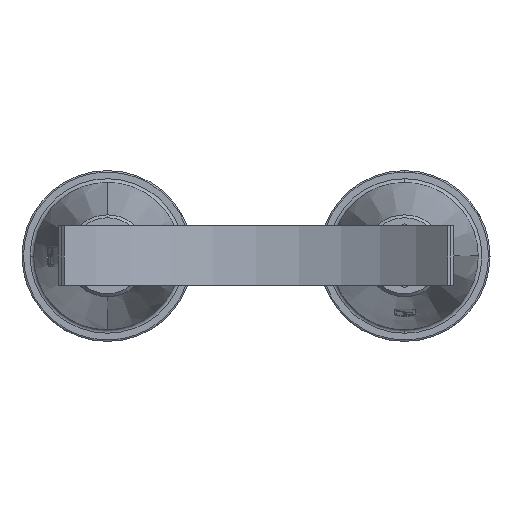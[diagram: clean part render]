
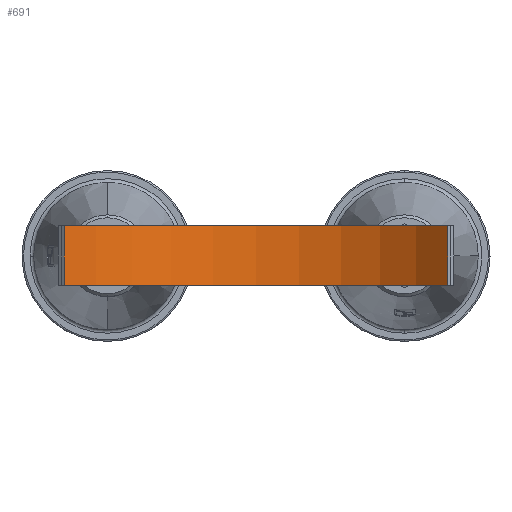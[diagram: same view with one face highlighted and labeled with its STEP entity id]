
A CAD part, top view. The second image highlights one B-rep face of the part: STEP entity #691.
In plain terms, the highlighted cylindrical face has radius 351 mm (diameter 702 mm), a partial arc.
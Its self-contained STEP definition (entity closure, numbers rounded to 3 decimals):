
#691=ADVANCED_FACE('',(#1350),#1351,.F.);
#1350=FACE_OUTER_BOUND('',#2031,.T.);
#1351=CYLINDRICAL_SURFACE('',#2032,351.);
#2031=EDGE_LOOP('',(#3700,#3701,#3702,#3703));
#2032=AXIS2_PLACEMENT_3D('',#3704,#3705,#3706);
#3700=ORIENTED_EDGE('',*,*,#4491,.T.);
#3701=ORIENTED_EDGE('',*,*,#4492,.F.);
#3702=ORIENTED_EDGE('',*,*,#4493,.F.);
#3703=ORIENTED_EDGE('',*,*,#4488,.T.);
#3704=CARTESIAN_POINT('',(418.294,646.224,436.336));
#3705=DIRECTION('',(0.,-1.0,0.));
#3706=DIRECTION('',(1.0,0.,0.));
#4488=EDGE_CURVE('',#5463,#5461,#5464,.T.);
#4491=EDGE_CURVE('',#5461,#5467,#5468,.T.);
#4492=EDGE_CURVE('',#5469,#5467,#5470,.T.);
#4493=EDGE_CURVE('',#5463,#5469,#5471,.T.);
#5461=VERTEX_POINT('',#7831);
#5463=VERTEX_POINT('',#7834);
#5464=LINE('',#7835,#7836);
#5467=VERTEX_POINT('',#7840);
#5468=CIRCLE('',#7841,351.);
#5469=VERTEX_POINT('',#7842);
#5470=LINE('',#7843,#7844);
#5471=CIRCLE('',#7845,351.);
#7831=CARTESIAN_POINT('',(159.845,566.224,198.838));
#7834=CARTESIAN_POINT('',(159.845,646.224,198.838));
#7835=CARTESIAN_POINT('',(159.845,646.224,198.838));
#7836=VECTOR('',#8872,1.);
#7840=CARTESIAN_POINT('',(676.545,566.224,198.624));
#7841=AXIS2_PLACEMENT_3D('',#8874,#8875,#8876);
#7842=CARTESIAN_POINT('',(676.545,646.224,198.624));
#7843=CARTESIAN_POINT('',(676.545,646.224,198.624));
#7844=VECTOR('',#8877,1.);
#7845=AXIS2_PLACEMENT_3D('',#8878,#8879,#8880);
#8872=DIRECTION('',(0.,-1.0,0.));
#8874=CARTESIAN_POINT('',(418.294,566.224,436.336));
#8875=DIRECTION('',(0.,-1.0,0.));
#8876=DIRECTION('',(1.0,0.,0.));
#8877=DIRECTION('',(0.,-1.0,0.));
#8878=CARTESIAN_POINT('',(418.294,646.224,436.336));
#8879=DIRECTION('',(0.,-1.0,0.));
#8880=DIRECTION('',(1.0,0.,0.));
